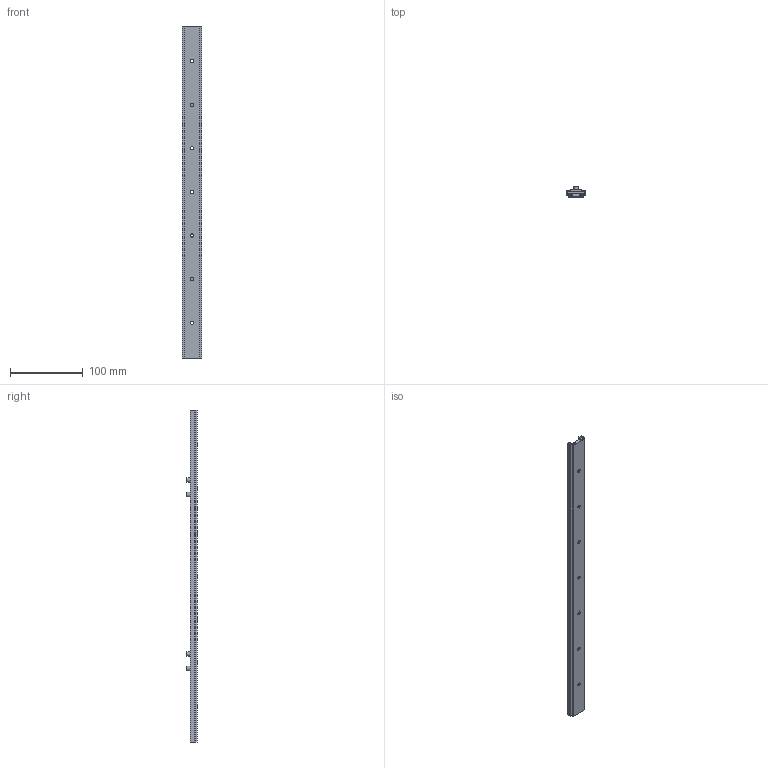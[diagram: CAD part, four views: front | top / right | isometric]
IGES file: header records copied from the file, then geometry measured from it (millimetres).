
Global section: file name: No Iges File Name specified; native system: AutoDesk Inventor R5.0; preprocessor: AutoDesk Inventor Iges Exporter R5.0; author: No Author specified; organization: No Organization specified; date: 20070112.200028; units: millimetre
Bounding box: 27 x 13.85 x 457.2 mm (x, y, z)
Surface area: 61466.4 mm2 (no closed solid volume)
Topology: 0 solids, 0 shells, 77 faces, 330 edges, 308 vertices
Faces by surface type: plane 46, bspline 27, revolution 4
